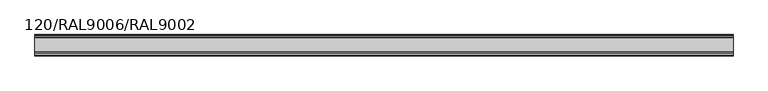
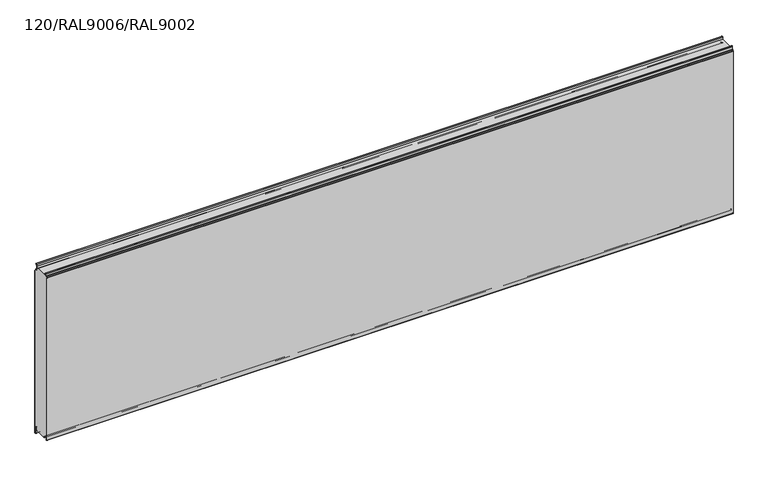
"""IFC4 building model written with IfcOpenShell, lengths in millimetres: plate geometry, TR_C_H_FHL_Panel : 120/RAL9006/RAL9002."""

from ifc_helpers import new_model, si_unit, point, frame, frame_2d, origin, place, context, project, spatial, polyline, circle_curve, trimmed, segment, composite_curve, outline, extrude, source, transform, mapped, element, save


def plate_120_ral9006_ral9002_5a172faf(model_context):
    return source(origin(), model_context, "Body", "SweptSolid", [
        extrude(outline(composite_curve([segment(polyline([(-17.4455763, 1000.0), (-17.6, 998.2349288), (-17.6, 979.1)]), True, "CONTINUOUS"), segment(trimmed(circle_curve(frame_2d((-14.8, 979.1)), 2.8), [point((-17.6, 979.1))], [point((-14.8, 976.3))], True, "CARTESIAN"), True, "CONTINUOUS"), segment(polyline([(-14.8, 976.3), (-8.9, 976.3)]), True, "CONTINUOUS"), segment(trimmed(circle_curve(frame_2d((-8.9, 974.4)), 1.9), [point((-8.9, 976.3))], [point((-7.0, 974.4))], False, "CARTESIAN"), True, "CONTINUOUS"), segment(polyline([(-7.0, 974.4), (-7.0, 971.5838835)]), True, "CONTINUOUS"), segment(trimmed(circle_curve(frame_2d((-4.2, 971.5838835)), 2.8), [point((-7.0, 971.5838835))], [point((-6.179899, 969.6039845))], True, "CARTESIAN"), True, "CONTINUOUS"), segment(polyline([(-6.179899, 969.6039845), (-1.3564971, 964.7805826)]), True, "CONTINUOUS"), segment(trimmed(circle_curve(frame_2d((-2.7, 963.4370797)), 1.9), [point((-1.3564971, 964.7805826))], [point((-0.8, 963.4370797))], False, "CARTESIAN"), True, "CONTINUOUS"), segment(polyline([(-0.8, 963.4370797), (-0.8, 15.9993484), (-12.3520294, 15.9993484)]), True, "CONTINUOUS"), segment(trimmed(circle_curve(frame_2d((-12.3520294, 11.0993484)), 4.9), [point((-12.3520294, 15.9993484))], [point((-17.2333835, 11.5264116))], True, "CARTESIAN"), True, "CONTINUOUS"), segment(polyline([(-17.2333835, 11.5264116), (-18.0972969, 1.6518352)]), True, "CONTINUOUS"), segment(trimmed(circle_curve(frame_2d((-19.7908279, 1.8)), 1.7), [point((-18.0972969, 1.6518352))], [point((-19.7908279, 0.1))], False, "CARTESIAN"), True, "CONTINUOUS"), segment(polyline([(-19.7908279, 0.1), (-20.8, 0.0), (-94.86, 0.0), (-94.86, 7.9), (-102.3925589, 7.9)]), True, "CONTINUOUS"), segment(trimmed(circle_curve(frame_2d((-102.3925589, 10.85)), 2.95), [point((-102.3925589, 7.9))], [point((-105.2977418, 10.3377379))], False, "CARTESIAN"), True, "CONTINUOUS"), segment(polyline([(-105.2977418, 10.3377379), (-106.364567, 16.3880048)]), True, "CONTINUOUS"), segment(trimmed(circle_curve(frame_2d((-110.55, 15.65)), 4.25), [point((-106.364567, 16.3880048))], [point((-110.55, 19.9))], True, "CARTESIAN"), True, "CONTINUOUS"), segment(polyline([(-110.55, 19.9), (-119.2, 19.9), (-119.2, 989.8218254)]), True, "CONTINUOUS"), segment(trimmed(circle_curve(frame_2d((-117.0, 989.8218254)), 2.2), [point((-119.2, 989.8218254))], [point((-118.5556349, 991.3774603))], False, "CARTESIAN"), True, "CONTINUOUS"), segment(polyline([(-118.5556349, 991.3774603), (-114.1665476, 995.7665476)]), True, "CONTINUOUS"), segment(trimmed(circle_curve(frame_2d((-116.5, 998.1)), 3.3), [point((-114.1665476, 995.7665476))], [point((-113.2, 998.1))], True, "CARTESIAN"), True, "CONTINUOUS"), segment(polyline([(-113.2, 998.1), (-113.2, 1000.0), (-17.4455763, 1000.0)]), True, "CONTINUOUS")], self_intersect=False)), frame((-1980.0, 0.0, 0.0), z_axis=(1.0, 0.0, 0.0), x_axis=(0.0, 1.0, 0.0)), (0.0, 0.0, 1.0), 3960.0),
        extrude(outline(composite_curve([segment(polyline([(-0.8, -25.1006169), (-0.8, 963.4370797)]), True, "CONTINUOUS"), segment(trimmed(circle_curve(frame_2d((-2.7, 963.4370797)), 1.9), [point((-0.8, 963.4370797))], [point((-1.3564971, 964.7805826))], True, "CARTESIAN"), True, "CONTINUOUS"), segment(polyline([(-1.3564971, 964.7805826), (-6.179899, 969.6039845)]), True, "CONTINUOUS"), segment(trimmed(circle_curve(frame_2d((-4.2, 971.5838835)), 2.8), [point((-6.179899, 969.6039845))], [point((-7.0, 971.5838835))], False, "CARTESIAN"), True, "CONTINUOUS"), segment(polyline([(-7.0, 971.5838835), (-7.0, 974.4)]), True, "CONTINUOUS"), segment(trimmed(circle_curve(frame_2d((-8.9, 974.4)), 1.9), [point((-7.0, 974.4))], [point((-8.9, 976.3))], True, "CARTESIAN"), True, "CONTINUOUS"), segment(polyline([(-8.9, 976.3), (-14.8, 976.3)]), True, "CONTINUOUS"), segment(trimmed(circle_curve(frame_2d((-14.8, 979.1)), 2.8), [point((-14.8, 976.3))], [point((-17.6, 979.1))], False, "CARTESIAN"), True, "CONTINUOUS"), segment(polyline([(-17.6, 979.1), (-17.6, 998.2349288), (-16.5051936, 1010.748623)]), True, "CONTINUOUS"), segment(trimmed(circle_curve(frame_2d((-12.5204148, 1010.4)), 4.0), [point((-16.5051936, 1010.748623))], [point((-8.7383405, 1011.7022726))], False, "CARTESIAN"), True, "CONTINUOUS"), segment(polyline([(-8.7383405, 1011.7022726), (-8.4287263, 1010.8030877), (-9.1851412, 1010.5426332), (-9.4947554, 1011.4418181)]), True, "CONTINUOUS"), segment(trimmed(circle_curve(frame_2d((-12.5204148, 1010.4)), 3.2), [point((-9.4947554, 1011.4418181))], [point((-15.7082379, 1010.6788984))], True, "CARTESIAN"), True, "CONTINUOUS"), segment(polyline([(-15.7082379, 1010.6788984), (-16.8, 998.2), (-16.8, 979.1)]), True, "CONTINUOUS"), segment(trimmed(circle_curve(frame_2d((-14.8, 979.1)), 2.0), [point((-16.8, 979.1))], [point((-14.8, 977.1))], True, "CARTESIAN"), True, "CONTINUOUS"), segment(polyline([(-14.8, 977.1), (-8.9, 977.1)]), True, "CONTINUOUS"), segment(trimmed(circle_curve(frame_2d((-8.9, 974.4)), 2.7), [point((-8.9, 977.1))], [point((-6.2, 974.4))], False, "CARTESIAN"), True, "CONTINUOUS"), segment(polyline([(-6.2, 974.4), (-6.2, 971.5838835)]), True, "CONTINUOUS"), segment(trimmed(circle_curve(frame_2d((-4.2, 971.5838835)), 2.0), [point((-6.2, 971.5838835))], [point((-5.6142136, 970.1696699))], True, "CARTESIAN"), True, "CONTINUOUS"), segment(polyline([(-5.6142136, 970.1696699), (-0.7908117, 965.346268)]), True, "CONTINUOUS"), segment(trimmed(circle_curve(frame_2d((-2.7, 963.4370797)), 2.7), [point((-0.7908117, 965.346268))], [point((0.0, 963.4370797))], False, "CARTESIAN"), True, "CONTINUOUS"), segment(polyline([(0.0, 963.4370797), (0.0, -25.1006169)]), True, "CONTINUOUS"), segment(trimmed(circle_curve(frame_2d((-2.7, -25.1006169)), 2.7), [point((0.0, -25.1006169))], [point((-0.8586044, -27.0752719))], False, "CARTESIAN"), True, "CONTINUOUS"), segment(polyline([(-0.8586044, -27.0752719), (-2.8042031, -28.889572)]), True, "CONTINUOUS"), segment(trimmed(circle_curve(frame_2d((-4.1, -27.5)), 1.9), [point((-2.8042031, -28.889572))], [point((-6.0, -27.5))], False, "CARTESIAN"), True, "CONTINUOUS"), segment(polyline([(-6.0, -27.5), (-6.0, 4.8267282)]), True, "CONTINUOUS"), segment(trimmed(circle_curve(frame_2d((-8.5, 4.8267282)), 2.5), [point((-6.0, 4.8267282))], [point((-6.1362036, 5.6406486))], True, "CARTESIAN"), True, "CONTINUOUS"), segment(polyline([(-6.1362036, 5.6406486), (-8.4754033, 12.4341779)]), True, "CONTINUOUS"), segment(trimmed(circle_curve(frame_2d((-12.3520294, 11.0993484)), 4.1), [point((-8.4754033, 12.4341779))], [point((-16.4364277, 11.456687))], True, "CARTESIAN"), True, "CONTINUOUS"), segment(polyline([(-16.4364277, 11.456687), (-17.3003412, 1.5821106)]), True, "CONTINUOUS"), segment(trimmed(circle_curve(frame_2d((-19.7908279, 1.8)), 2.5), [point((-17.3003412, 1.5821106))], [point((-19.7908279, -0.7))], False, "CARTESIAN"), True, "CONTINUOUS"), segment(polyline([(-19.7908279, -0.7), (-20.8, -0.7), (-20.8, 0.1), (-19.7908279, 0.1)]), True, "CONTINUOUS"), segment(trimmed(circle_curve(frame_2d((-19.7908279, 1.8)), 1.7), [point((-19.7908279, 0.1))], [point((-18.0972969, 1.6518352))], True, "CARTESIAN"), True, "CONTINUOUS"), segment(polyline([(-18.0972969, 1.6518352), (-17.2333835, 11.5264116)]), True, "CONTINUOUS"), segment(trimmed(circle_curve(frame_2d((-12.3520294, 11.0993484)), 4.9), [point((-17.2333835, 11.5264116))], [point((-7.7189884, 12.6946324))], False, "CARTESIAN"), True, "CONTINUOUS"), segment(polyline([(-7.7189884, 12.6946324), (-5.3797887, 5.9011031)]), True, "CONTINUOUS"), segment(trimmed(circle_curve(frame_2d((-8.5, 4.8267282)), 3.3), [point((-5.3797887, 5.9011031))], [point((-5.2, 4.8267282))], False, "CARTESIAN"), True, "CONTINUOUS"), segment(polyline([(-5.2, 4.8267282), (-5.2, -27.5)]), True, "CONTINUOUS"), segment(trimmed(circle_curve(frame_2d((-4.1, -27.5)), 1.1), [point((-5.2, -27.5))], [point((-3.3498018, -28.3044891))], True, "CARTESIAN"), True, "CONTINUOUS"), segment(polyline([(-3.3498018, -28.3044891), (-1.4042031, -26.4901889)]), True, "CONTINUOUS"), segment(trimmed(circle_curve(frame_2d((-2.7, -25.1006169)), 1.9), [point((-1.4042031, -26.4901889))], [point((-0.8, -25.1006169))], True, "CARTESIAN"), True, "CONTINUOUS")], self_intersect=False)), frame((-1980.0, 0.0, 0.0), z_axis=(1.0, 0.0, 0.0), x_axis=(0.0, 1.0, 0.0)), (0.0, 0.0, 1.0), 3960.0),
        extrude(outline(composite_curve([segment(polyline([(-99.0, 7.1), (-102.3925589, 7.1)]), True, "CONTINUOUS"), segment(trimmed(circle_curve(frame_2d((-102.3925589, 10.85)), 3.75), [point((-102.3925589, 7.1))], [point((-106.085588, 10.1988193))], False, "CARTESIAN"), True, "CONTINUOUS"), segment(polyline([(-106.085588, 10.1988193), (-107.1524133, 16.2490862)]), True, "CONTINUOUS"), segment(trimmed(circle_curve(frame_2d((-110.55, 15.65)), 3.45), [point((-107.1524133, 16.2490862))], [point((-114.0, 15.65))], True, "CARTESIAN"), True, "CONTINUOUS"), segment(polyline([(-114.0, 15.65), (-114.0, -1.95)]), True, "CONTINUOUS"), segment(trimmed(circle_curve(frame_2d((-115.95, -1.95)), 1.95), [point((-114.0, -1.95))], [point((-117.3288582, -3.3288582))], False, "CARTESIAN"), True, "CONTINUOUS"), segment(polyline([(-117.3288582, -3.3288582), (-119.1945436, -1.4631728)]), True, "CONTINUOUS"), segment(trimmed(circle_curve(frame_2d((-117.25, 0.4813708)), 2.75), [point((-119.1945436, -1.4631728))], [point((-120.0, 0.4813708))], False, "CARTESIAN"), True, "CONTINUOUS"), segment(polyline([(-120.0, 0.4813708), (-120.0, 989.8218254)]), True, "CONTINUOUS"), segment(trimmed(circle_curve(frame_2d((-117.0, 989.8218254)), 3.0), [point((-120.0, 989.8218254))], [point((-119.1213203, 991.9431458))], False, "CARTESIAN"), True, "CONTINUOUS"), segment(polyline([(-119.1213203, 991.9431458), (-114.732233, 996.332233)]), True, "CONTINUOUS"), segment(trimmed(circle_curve(frame_2d((-116.5, 998.1)), 2.5), [point((-114.732233, 996.332233))], [point((-114.0, 998.1))], True, "CARTESIAN"), True, "CONTINUOUS"), segment(polyline([(-114.0, 998.1), (-114.0, 1012.85)]), True, "CONTINUOUS"), segment(trimmed(circle_curve(frame_2d((-110.75, 1012.85)), 3.25), [point((-114.0, 1012.85))], [point((-107.5493748, 1013.4143566))], False, "CARTESIAN"), True, "CONTINUOUS"), segment(polyline([(-107.5493748, 1013.4143566), (-106.8060618, 1009.1988193)]), True, "CONTINUOUS"), segment(trimmed(circle_curve(frame_2d((-103.1130328, 1009.85)), 3.75), [point((-106.8060618, 1009.1988193))], [point((-103.1130328, 1006.1))], True, "CARTESIAN"), True, "CONTINUOUS"), segment(polyline([(-103.1130328, 1006.1), (-99.0, 1006.1), (-99.0, 1005.3), (-103.1130328, 1005.3)]), True, "CONTINUOUS"), segment(trimmed(circle_curve(frame_2d((-103.1130328, 1009.85)), 4.55), [point((-103.1130328, 1005.3))], [point((-107.5939081, 1009.0599008))], False, "CARTESIAN"), True, "CONTINUOUS"), segment(polyline([(-107.5939081, 1009.0599008), (-108.337221, 1013.275438)]), True, "CONTINUOUS"), segment(trimmed(circle_curve(frame_2d((-110.75, 1012.85)), 2.45), [point((-108.337221, 1013.275438))], [point((-113.2, 1012.85))], True, "CARTESIAN"), True, "CONTINUOUS"), segment(polyline([(-113.2, 1012.85), (-113.2, 998.1)]), True, "CONTINUOUS"), segment(trimmed(circle_curve(frame_2d((-116.5, 998.1)), 3.3), [point((-113.2, 998.1))], [point((-114.1665476, 995.7665476))], False, "CARTESIAN"), True, "CONTINUOUS"), segment(polyline([(-114.1665476, 995.7665476), (-118.5556349, 991.3774603)]), True, "CONTINUOUS"), segment(trimmed(circle_curve(frame_2d((-117.0, 989.8218254)), 2.2), [point((-118.5556349, 991.3774603))], [point((-119.2, 989.8218254))], True, "CARTESIAN"), True, "CONTINUOUS"), segment(polyline([(-119.2, 989.8218254), (-119.2, 0.4813708)]), True, "CONTINUOUS"), segment(trimmed(circle_curve(frame_2d((-117.25, 0.4813708)), 1.95), [point((-119.2, 0.4813708))], [point((-118.6288582, -0.8974874))], True, "CARTESIAN"), True, "CONTINUOUS"), segment(polyline([(-118.6288582, -0.8974874), (-116.7631728, -2.7631728)]), True, "CONTINUOUS"), segment(trimmed(circle_curve(frame_2d((-115.95, -1.95)), 1.15), [point((-116.7631728, -2.7631728))], [point((-114.8, -1.95))], True, "CARTESIAN"), True, "CONTINUOUS"), segment(polyline([(-114.8, -1.95), (-114.8, 15.65)]), True, "CONTINUOUS"), segment(trimmed(circle_curve(frame_2d((-110.55, 15.65)), 4.25), [point((-114.8, 15.65))], [point((-106.364567, 16.3880048))], False, "CARTESIAN"), True, "CONTINUOUS"), segment(polyline([(-106.364567, 16.3880048), (-105.2977418, 10.3377379)]), True, "CONTINUOUS"), segment(trimmed(circle_curve(frame_2d((-102.3925589, 10.85)), 2.95), [point((-105.2977418, 10.3377379))], [point((-102.3925589, 7.9))], True, "CARTESIAN"), True, "CONTINUOUS"), segment(polyline([(-102.3925589, 7.9), (-99.0, 7.9), (-99.0, 7.1)]), True, "CONTINUOUS")], self_intersect=False)), frame((-1980.0, 0.0, 0.0), z_axis=(1.0, 0.0, 0.0), x_axis=(0.0, 1.0, 0.0)), (0.0, 0.0, 1.0), 3960.0),
    ])


if __name__ == "__main__":
    model = new_model("IFC4")
    model_context = context("Model", 3, world=origin())
    ifc_project = project(units=[si_unit("LENGTHUNIT", "METRE", prefix="MILLI")], contexts=[model_context])
    site = spatial("IfcSite", under=ifc_project)
    building = spatial("IfcBuilding", under=site)
    placement = place(None, origin())
    plate_120_ral9006_ral9002_shape = plate_120_ral9006_ral9002_5a172faf(model_context)
    element("IfcPlate", 1, ObjectType="TR_C_H_FHL_Panel : 120/RAL9006/RAL9002", at=placement, inside=building, context=model_context, shape_type="MappedRepresentation", body=[
        mapped(plate_120_ral9006_ral9002_shape, transform((0.0, 0.0, 0.0), x_axis=(1.0, 0.0, 0.0), y_axis=(0.0, 1.0, 0.0), z_axis=(0.0, 0.0, 1.0))),
    ])
    save(model, "model.ifc")
